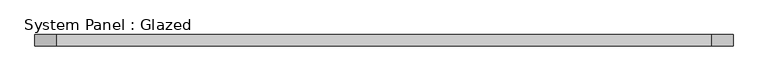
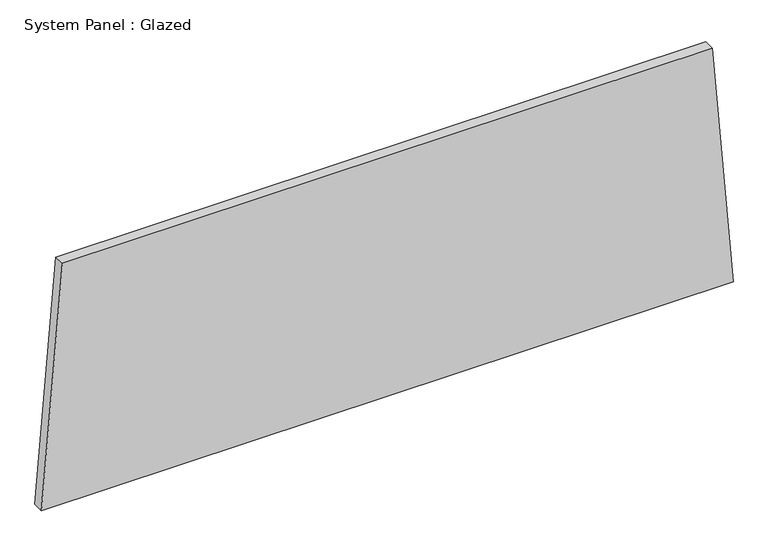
"""IFC4 building model written with IfcOpenShell, lengths in millimetres: plate geometry, System Panel : Glazed."""

import ifcopenshell
import ifcopenshell.guid

model = None  # the IFC model being written
_history = None  # IfcOwnerHistory: only IFC2X3 demands one
_inside = {}  # id of a spatial element -> (the spatial element, [elements in it])
_under = {}  # id of a project, library or spatial element -> (it, [spatial elements below it])
_declared = {}  # id of a project -> (the project, [libraries it declares])
_typed = {}  # id of a type object -> (the type object, [elements of that type])
_made_of = {}  # id of a material, layer set ... -> (it, [elements and type objects made of it])


def new_model(schema):
    """Start an empty IFC model of exactly this schema.

    Asked for "IFC4X3", IfcOpenShell would pick the latest addendum, in which some entities
    have other attributes; the version numbers below select the first issue.
    IFC2X3 requires an IfcOwnerHistory on every rooted entity: one is made here for all.
    """
    global model, _history
    if schema == "IFC4X3":
        model = ifcopenshell.file(schema_version=(4, 3, 0, 0))
    else:
        model = ifcopenshell.file(schema=schema)
    _inside.clear()
    _under.clear()
    _declared.clear()
    _typed.clear()
    _made_of.clear()
    _history = None
    if model.schema == "IFC2X3":
        org = make("IfcOrganization", Name="unknown")
        user = make(
            "IfcPersonAndOrganization",
            ThePerson=make("IfcPerson", FamilyName="unknown"),
            TheOrganization=org,
        )
        app = make(
            "IfcApplication",
            ApplicationDeveloper=org,
            Version="unknown",
            ApplicationFullName="unknown",
            ApplicationIdentifier="unknown",
        )
        _history = make(
            "IfcOwnerHistory",
            OwningUser=user,
            OwningApplication=app,
            ChangeAction="ADDED",
            CreationDate=0,
        )
    return model


def make(cls, **values):
    """One entity of the class cls with the attributes given. An attribute that is None is left unset."""
    return model.create_entity(
        cls, **{name: value for name, value in values.items() if value is not None}
    )


def rooted(cls, **values):
    """An entity with a GlobalId (a new one), such as an element, a storey or a relation."""
    return make(cls, GlobalId=ifcopenshell.guid.new(), OwnerHistory=_history, **values)


def si_unit(unit_type, name, prefix=None):
    """IfcSIUnit, for example si_unit("LENGTHUNIT", "METRE", prefix="MILLI")."""
    return make("IfcSIUnit", UnitType=unit_type, Prefix=prefix, Name=name)


def assignment(units):
    """IfcUnitAssignment: the units of a project."""
    return None if units is None else make("IfcUnitAssignment", Units=units)


def point(xyz):
    """IfcCartesianPoint."""
    return None if xyz is None else make("IfcCartesianPoint", Coordinates=xyz)


def direction(xyz):
    """IfcDirection."""
    return None if xyz is None else make("IfcDirection", DirectionRatios=xyz)


def frame(location, z_axis=None, x_axis=None):
    """IfcAxis2Placement3D, a coordinate frame: its origin and axes. An axis left out is left unset."""
    return make(
        "IfcAxis2Placement3D",
        Location=point(location),
        Axis=direction(z_axis),
        RefDirection=direction(x_axis),
    )


def origin():
    """The frame at (0, 0, 0) with its axes left unset."""
    return frame((0.0, 0.0, 0.0))


def place(relative_to, where):
    """IfcLocalPlacement: puts the frame where relative to a parent placement (None: the world)."""
    return make(
        "IfcLocalPlacement", PlacementRelTo=relative_to, RelativePlacement=where
    )


def context(
    kind, dimensions, precision=None, world=None, true_north=None, identifier=None
):
    """IfcGeometricRepresentationContext, for example the 3D "Model" context."""
    return make(
        "IfcGeometricRepresentationContext",
        ContextIdentifier=identifier,
        ContextType=kind,
        CoordinateSpaceDimension=dimensions,
        Precision=precision,
        WorldCoordinateSystem=world,
        TrueNorth=true_north,
    )


def project(units=None, contexts=None):
    """IfcProject with its units and contexts."""
    return rooted(
        "IfcProject",
        Name="project",
        RepresentationContexts=contexts,
        UnitsInContext=assignment(units),
    )


def spatial(cls, under=None, at=None, **own):
    """A site, building, storey or space (cls), placed at a placement, below another one or the project."""
    s = rooted(cls, ObjectPlacement=at, **own)
    if under is not None:
        _under.setdefault(under.id(), (under, []))[1].append(s)
    return s


def polyline(points):
    """IfcPolyline through the points."""
    return make("IfcPolyline", Points=[point(p) for p in points])


def outline(outer, holes=None, kind="AREA"):
    """IfcArbitraryClosedProfileDef: a profile drawn as a closed curve; with holes, ...WithVoids."""
    if holes is None:
        return make("IfcArbitraryClosedProfileDef", ProfileType=kind, OuterCurve=outer)
    return make(
        "IfcArbitraryProfileDefWithVoids",
        ProfileType=kind,
        OuterCurve=outer,
        InnerCurves=holes,
    )


def extrude(swept, where, along, depth):
    """IfcExtrudedAreaSolid: the profile swept, set in the frame where, extruded along a direction by depth."""
    return make(
        "IfcExtrudedAreaSolid",
        SweptArea=swept,
        Position=where,
        ExtrudedDirection=direction(along),
        Depth=depth,
    )


def shape(context_of_items, identifier, shape_type, items):
    """IfcShapeRepresentation: the items that make up one representation, for example the "Body"."""
    return make(
        "IfcShapeRepresentation",
        ContextOfItems=context_of_items,
        RepresentationIdentifier=identifier,
        RepresentationType=shape_type,
        Items=items,
    )


def source(mapping_origin, context_of_items, identifier, shape_type, items):
    """IfcRepresentationMap: a shape defined once, which mapped items show again and again."""
    return make(
        "IfcRepresentationMap",
        MappingOrigin=mapping_origin,
        MappedRepresentation=shape(context_of_items, identifier, shape_type, items),
    )


def transform(
    local_origin,
    x_axis=None,
    y_axis=None,
    z_axis=None,
    scale=None,
    scale2=None,
    scale3=None,
    uniform=True,
):
    """IfcCartesianTransformationOperator3D, or its non-uniform kind. x_axis, y_axis, z_axis: its Axis1, 2, 3."""
    if uniform:
        return make(
            "IfcCartesianTransformationOperator3D",
            Axis1=direction(x_axis),
            Axis2=direction(y_axis),
            LocalOrigin=point(local_origin),
            Scale=scale,
            Axis3=direction(z_axis),
        )
    return make(
        "IfcCartesianTransformationOperator3DnonUniform",
        Axis1=direction(x_axis),
        Axis2=direction(y_axis),
        LocalOrigin=point(local_origin),
        Scale=scale,
        Axis3=direction(z_axis),
        Scale2=scale2,
        Scale3=scale3,
    )


def mapped(mapping_source, mapping_target):
    """IfcMappedItem: shows the shape of a source again, moved by a transform."""
    return make(
        "IfcMappedItem", MappingSource=mapping_source, MappingTarget=mapping_target
    )


def made_of(thing, what):
    """Note that an element or type object is made of a material, layer set ...; save() writes the relation."""
    if what is not None:
        _made_of.setdefault(what.id(), (what, []))[1].append(thing)
    return thing


def element(
    cls,
    number,
    at=None,
    inside=None,
    cuts=None,
    type_object=None,
    material=None,
    context=None,
    identifier="Body",
    shape_type=None,
    held_by="IfcProductDefinitionShape",
    body=None,
    shapes=None,
    **own,
):
    """One element of the class cls, such as IfcWall. Its Tag is "e" and its number.

    at: its placement. inside: the storey or other place that contains it. cuts: it is an
    opening in that element (IfcRelVoidsElement). A single representation is given by context,
    identifier, shape_type and body (its items); several are given by shapes. held_by: the class
    of the entity that holds the representations. save() writes the other relations.
    """
    e = rooted(cls, Tag="e%d" % number, ObjectPlacement=at, **own)
    if body is not None:
        shapes = [shape(context, identifier, shape_type, body)]
    if shapes is not None:
        e.Representation = make(held_by, Representations=shapes)
    if inside is not None:
        _inside.setdefault(inside.id(), (inside, []))[1].append(e)
    if cuts is not None:
        rooted(
            "IfcRelVoidsElement", RelatingBuildingElement=cuts, RelatedOpeningElement=e
        )
    if type_object is not None:
        _typed.setdefault(type_object.id(), (type_object, []))[1].append(e)
    return made_of(e, material)


def aggregate(whole, parts):
    """IfcRelAggregates: a whole, such as a stair, and the parts it consists of."""
    return rooted("IfcRelAggregates", RelatingObject=whole, RelatedObjects=parts)


def save(model, path):
    """Write the relations noted so far, then the file.

    IfcRelAggregates (storeys below a building ...), IfcRelContainedInSpatialStructure (elements
    in a storey), IfcRelDefinesByType, IfcRelAssociatesMaterial and IfcRelDeclares: one each for
    every whole, place, type object, material and project.
    """
    for whole, parts in _under.values():
        aggregate(whole, parts)
    for where, things in _inside.values():
        rooted(
            "IfcRelContainedInSpatialStructure",
            RelatedElements=things,
            RelatingStructure=where,
        )
    for kind, things in _typed.values():
        rooted("IfcRelDefinesByType", RelatedObjects=things, RelatingType=kind)
    for what, things in _made_of.values():
        rooted("IfcRelAssociatesMaterial", RelatedObjects=things, RelatingMaterial=what)
    for by, libraries in _declared.values():
        rooted("IfcRelDeclares", RelatingContext=by, RelatedDefinitions=libraries)
    model.write(path)


def system_panel_glazed_0c479225(model_context):
    return source(origin(), model_context, "Body", "SweptSolid", [
        extrude(outline(polyline([(0.0, -792.5357107), (0.0, 792.5357107), (582.1199553, 744.3237307), (582.1199553, -744.3237307), (0.0, -792.5357107)])), frame((0.0, -44.45, 0.0), z_axis=(0.0, 1.0, 0.0), x_axis=(0.0, 0.0, 1.0)), (0.0, 0.0, 1.0), 25.4),
    ])


if __name__ == "__main__":
    model = new_model("IFC4")
    model_context = context("Model", 3, world=origin())
    ifc_project = project(units=[si_unit("LENGTHUNIT", "METRE", prefix="MILLI")], contexts=[model_context])
    site = spatial("IfcSite", under=ifc_project)
    building = spatial("IfcBuilding", under=site)
    placement = place(None, origin())
    system_panel_glazed_shape = system_panel_glazed_0c479225(model_context)
    element("IfcPlate", 1, ObjectType="System Panel : Glazed", at=placement, inside=building, context=model_context, shape_type="MappedRepresentation", body=[
        mapped(system_panel_glazed_shape, transform((0.0, 0.0, 0.0), x_axis=(1.0, 0.0, 0.0), y_axis=(0.0, 1.0, 0.0), z_axis=(0.0, 0.0, 1.0))),
    ])
    save(model, "model.ifc")
